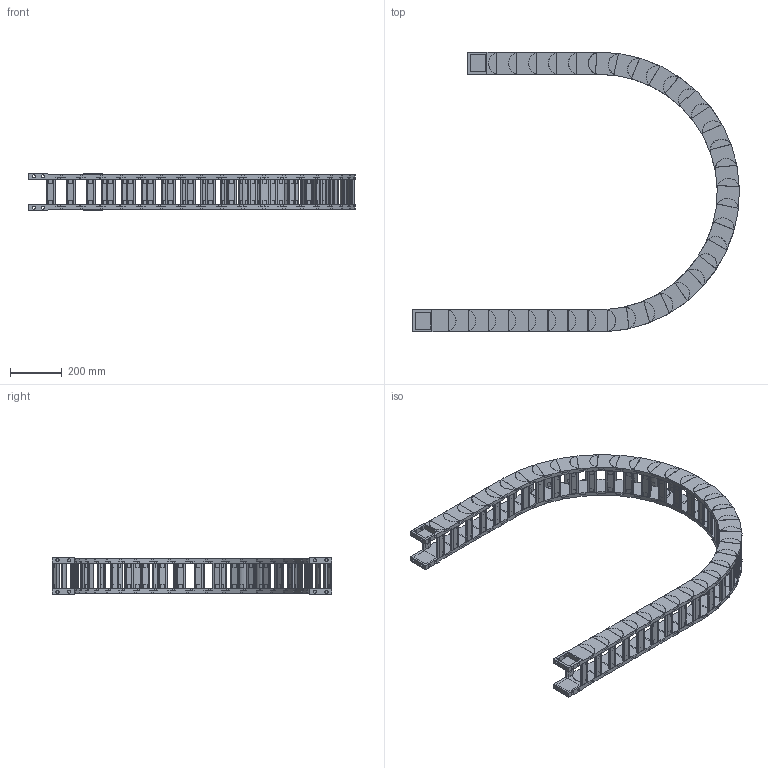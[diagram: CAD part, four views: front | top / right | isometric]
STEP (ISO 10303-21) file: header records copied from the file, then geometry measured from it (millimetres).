
FILE_DESCRIPTION((''),'2;1');
FILE_NAME('HD65-R500-ZPT_ASM','2022-06-18T11:00:49',('admin'),(''),'CREO PARAMETRIC BY PTC INC, 2021164','CREO PARAMETRIC BY PTC INC, 2021164','');
FILE_SCHEMA(('CONFIG_CONTROL_DESIGN','GEOMETRIC_VALIDATION_PROPERTIES_MIM'));
Length unit declared in the file: millimetre
Products named in the file (6): HD65; 65-50HDQSYP; HD65_ASM; H65-T1; H65-T2; HD65-R500-ZPT_ASM
Assembly tree (39 placements, depth 3):
  HD65-R500-ZPT_ASM
    HD65_ASM  x33
      HD65
      65-50HDQSYP
    H65-T1
    H65-T2
    65-50HDQSYP  x2
Bounding box: 1268.67 x 1085.63 x 140.3 mm (x, y, z)
Volume: 9880728.8 mm3; surface area: 2951683.6 mm2
Topology: 140 solids, 140 shells, 2564 faces, 6758 edges, 4618 vertices
Faces by surface type: plane 1976, cylinder 588
Entity records: 9052 total; most frequent: CARTESIAN_POINT 1354, DIRECTION 1322, ORIENTED_EDGE 1212, EDGE_CURVE 606, AXIS2_PLACEMENT_3D 449, VECTOR 424, LINE 424, VERTEX_POINT 410
